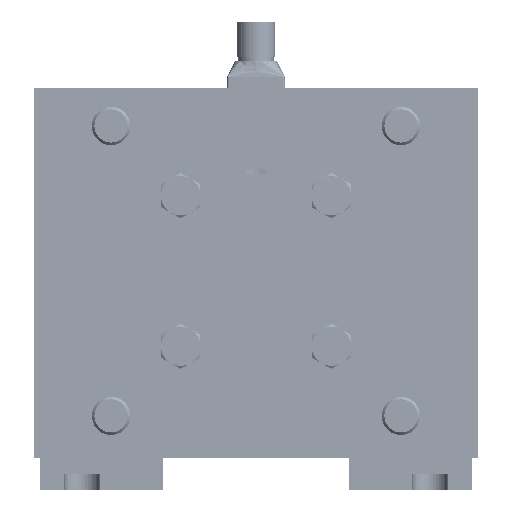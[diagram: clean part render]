
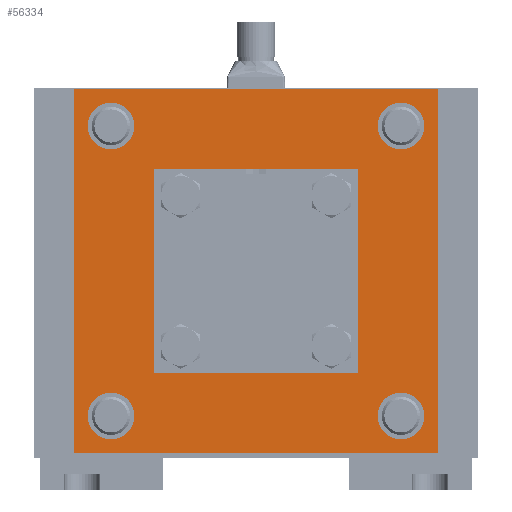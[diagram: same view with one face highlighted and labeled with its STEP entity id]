
A CAD part, front view. The second image highlights one B-rep face of the part: STEP entity #56334.
In plain terms, the highlighted planar face has unit normal (0, -1, 0) as drawn and (0, 0, 1) by its records, which use the part's own axes.
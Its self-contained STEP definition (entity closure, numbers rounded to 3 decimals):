
#5931=LINE($,#157797,#8936);
#5934=LINE($,#157802,#8939);
#5935=LINE($,#157844,#8940);
#5937=LINE($,#157847,#8942);
#8936=VECTOR($,#77164,113.03);
#8939=VECTOR($,#77169,113.03);
#8940=VECTOR($,#77224,113.03);
#8942=VECTOR($,#77228,113.03);
#10360=PLANE($,#62532);
#12043=FACE_BOUND($,#22155,.T.);
#12044=FACE_BOUND($,#22156,.T.);
#12045=FACE_BOUND($,#22157,.T.);
#12046=FACE_BOUND($,#22158,.T.);
#12047=FACE_BOUND($,#22159,.T.);
#12048=FACE_BOUND($,#22160,.T.);
#12049=FACE_BOUND($,#22161,.T.);
#12050=FACE_BOUND($,#22162,.T.);
#12051=FACE_BOUND($,#22163,.T.);
#16859=FACE_OUTER_BOUND($,#22154,.T.);
#22154=EDGE_LOOP($,(#51616,#51617,#51618,#51619));
#22155=EDGE_LOOP($,(#51620));
#22156=EDGE_LOOP($,(#51621));
#22157=EDGE_LOOP($,(#51622));
#22158=EDGE_LOOP($,(#51623));
#22159=EDGE_LOOP($,(#51624));
#22160=EDGE_LOOP($,(#51625));
#22161=EDGE_LOOP($,(#51626));
#22162=EDGE_LOOP($,(#51627));
#22163=EDGE_LOOP($,(#51628));
#24437=CIRCLE($,#62477,7.25);
#24441=CIRCLE($,#62484,7.25);
#24445=CIRCLE($,#62491,7.25);
#24449=CIRCLE($,#62498,7.25);
#24451=CIRCLE($,#62505,22.5);
#24454=CIRCLE($,#62510,6.);
#24457=CIRCLE($,#62516,6.);
#24460=CIRCLE($,#62522,6.);
#24463=CIRCLE($,#62528,6.);
#29732=VERTEX_POINT($,#157746);
#29736=VERTEX_POINT($,#157757);
#29740=VERTEX_POINT($,#157768);
#29744=VERTEX_POINT($,#157779);
#29750=VERTEX_POINT($,#157794);
#29751=VERTEX_POINT($,#157796);
#29752=VERTEX_POINT($,#157800);
#29753=VERTEX_POINT($,#157804);
#29756=VERTEX_POINT($,#157812);
#29759=VERTEX_POINT($,#157821);
#29762=VERTEX_POINT($,#157830);
#29765=VERTEX_POINT($,#157839);
#29766=VERTEX_POINT($,#157843);
#37052=EDGE_CURVE($,#29732,#29732,#24437,.T.);
#37056=EDGE_CURVE($,#29736,#29736,#24441,.T.);
#37060=EDGE_CURVE($,#29740,#29740,#24445,.T.);
#37064=EDGE_CURVE($,#29744,#29744,#24449,.T.);
#37071=EDGE_CURVE($,#29751,#29750,#5931,.T.);
#37074=EDGE_CURVE($,#29750,#29752,#5934,.T.);
#37075=EDGE_CURVE($,#29753,#29753,#24451,.T.);
#37078=EDGE_CURVE($,#29756,#29756,#24454,.T.);
#37081=EDGE_CURVE($,#29759,#29759,#24457,.T.);
#37084=EDGE_CURVE($,#29762,#29762,#24460,.T.);
#37087=EDGE_CURVE($,#29765,#29765,#24463,.T.);
#37088=EDGE_CURVE($,#29766,#29751,#5935,.T.);
#37090=EDGE_CURVE($,#29752,#29766,#5937,.T.);
#51616=ORIENTED_EDGE($,*,*,#37074,.T.);
#51617=ORIENTED_EDGE($,*,*,#37090,.T.);
#51618=ORIENTED_EDGE($,*,*,#37088,.T.);
#51619=ORIENTED_EDGE($,*,*,#37071,.T.);
#51620=ORIENTED_EDGE($,*,*,#37052,.T.);
#51621=ORIENTED_EDGE($,*,*,#37056,.T.);
#51622=ORIENTED_EDGE($,*,*,#37060,.T.);
#51623=ORIENTED_EDGE($,*,*,#37064,.T.);
#51624=ORIENTED_EDGE($,*,*,#37075,.T.);
#51625=ORIENTED_EDGE($,*,*,#37078,.T.);
#51626=ORIENTED_EDGE($,*,*,#37081,.T.);
#51627=ORIENTED_EDGE($,*,*,#37084,.T.);
#51628=ORIENTED_EDGE($,*,*,#37087,.T.);
#56334=ADVANCED_FACE($,(#16859,#12043,#12044,#12045,#12046,#12047,#12048,
#12049,#12050,#12051),#10360,.T.);
#62477=AXIS2_PLACEMENT_3D($,#157747,#77107,#77108);
#62484=AXIS2_PLACEMENT_3D($,#157758,#77121,#77122);
#62491=AXIS2_PLACEMENT_3D($,#157769,#77135,#77136);
#62498=AXIS2_PLACEMENT_3D($,#157780,#77149,#77150);
#62505=AXIS2_PLACEMENT_3D($,#157805,#77172,#77173);
#62510=AXIS2_PLACEMENT_3D($,#157813,#77182,#77183);
#62516=AXIS2_PLACEMENT_3D($,#157822,#77194,#77195);
#62522=AXIS2_PLACEMENT_3D($,#157831,#77206,#77207);
#62528=AXIS2_PLACEMENT_3D($,#157840,#77218,#77219);
#62532=AXIS2_PLACEMENT_3D($,#157848,#77229,#77230);
#77107=DIRECTION('center_axis',(0.,0.,-1.));
#77108=DIRECTION('ref_axis',(1.,0.,0.));
#77121=DIRECTION('center_axis',(0.,0.,-1.));
#77122=DIRECTION('ref_axis',(1.,0.,0.));
#77135=DIRECTION('center_axis',(0.,0.,-1.));
#77136=DIRECTION('ref_axis',(1.,0.,0.));
#77149=DIRECTION('center_axis',(0.,0.,-1.));
#77150=DIRECTION('ref_axis',(1.,0.,0.));
#77164=DIRECTION($,(0.,1.,0.));
#77169=DIRECTION($,(-1.,0.,0.));
#77172=DIRECTION('center_axis',(0.,0.,-1.));
#77173=DIRECTION('ref_axis',(-1.,0.,0.));
#77182=DIRECTION('center_axis',(0.,0.,-1.));
#77183=DIRECTION('ref_axis',(1.,0.,0.));
#77194=DIRECTION('center_axis',(0.,0.,-1.));
#77195=DIRECTION('ref_axis',(1.,0.,0.));
#77206=DIRECTION('center_axis',(0.,0.,-1.));
#77207=DIRECTION('ref_axis',(1.,0.,0.));
#77218=DIRECTION('center_axis',(0.,0.,-1.));
#77219=DIRECTION('ref_axis',(1.,0.,0.));
#77224=DIRECTION($,(1.,0.,0.));
#77228=DIRECTION($,(0.,-1.,0.));
#77229=DIRECTION('center_axis',(0.,0.,1.));
#77230=DIRECTION('ref_axis',(1.,0.,0.));
#157746=CARTESIAN_POINT('',(52.25,-45.,40.));
#157747=CARTESIAN_POINT('Origin',(45.,-45.,40.));
#157757=CARTESIAN_POINT('',(-37.75,45.,40.));
#157758=CARTESIAN_POINT('Origin',(-45.,45.,40.));
#157768=CARTESIAN_POINT('',(52.25,45.,40.));
#157769=CARTESIAN_POINT('Origin',(45.,45.,40.));
#157779=CARTESIAN_POINT('',(-37.75,-45.,40.));
#157780=CARTESIAN_POINT('Origin',(-45.,-45.,40.));
#157794=CARTESIAN_POINT('',(56.515,56.515,40.));
#157796=CARTESIAN_POINT('',(56.515,-56.515,40.));
#157797=CARTESIAN_POINT($,(56.515,56.515,40.));
#157800=CARTESIAN_POINT('',(-56.515,56.515,40.));
#157802=CARTESIAN_POINT($,(-56.515,56.515,40.));
#157804=CARTESIAN_POINT('',(22.5,0.,40.));
#157805=CARTESIAN_POINT('Origin',(0.,0.,40.));
#157812=CARTESIAN_POINT('',(29.368,-23.368,40.));
#157813=CARTESIAN_POINT('Origin',(23.368,-23.368,40.));
#157821=CARTESIAN_POINT('',(-17.368,23.368,40.));
#157822=CARTESIAN_POINT('Origin',(-23.368,23.368,40.));
#157830=CARTESIAN_POINT('',(29.368,23.368,40.));
#157831=CARTESIAN_POINT('Origin',(23.368,23.368,40.));
#157839=CARTESIAN_POINT('',(-17.368,-23.368,40.));
#157840=CARTESIAN_POINT('Origin',(-23.368,-23.368,40.));
#157843=CARTESIAN_POINT('',(-56.515,-56.515,40.));
#157844=CARTESIAN_POINT($,(56.515,-56.515,40.));
#157847=CARTESIAN_POINT($,(-56.515,-56.515,40.));
#157848=CARTESIAN_POINT('Origin',(0.,0.,40.));
